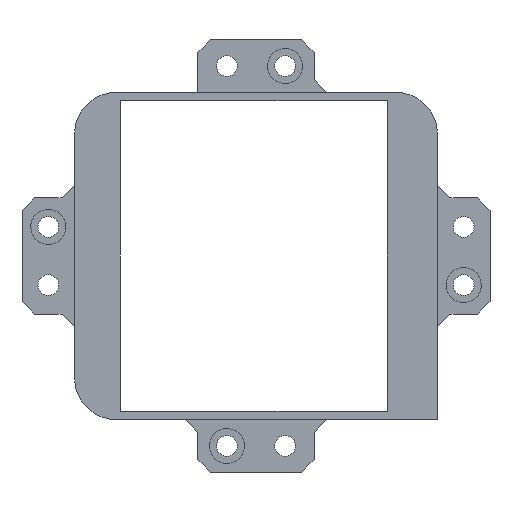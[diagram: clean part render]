
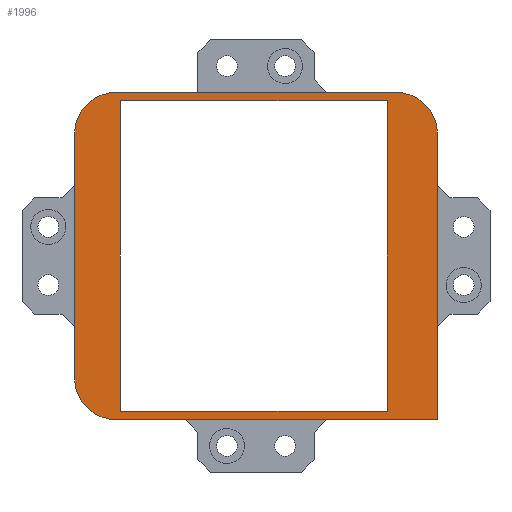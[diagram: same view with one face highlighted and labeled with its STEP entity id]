
A CAD part, left-side view. The second image highlights one B-rep face of the part: STEP entity #1996.
In plain terms, the highlighted planar face has unit normal (-1, 0, 0).
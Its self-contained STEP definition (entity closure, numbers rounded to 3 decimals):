
#50=FACE_BOUND('',#276,.T.);
#82=CIRCLE('',#2144,5.);
#83=CIRCLE('',#2146,5.);
#84=CIRCLE('',#2147,5.);
#156=FACE_OUTER_BOUND('',#275,.T.);
#275=EDGE_LOOP('',(#1607,#1608,#1609,#1610,#1611,#1612,#1613));
#276=EDGE_LOOP('',(#1614,#1615,#1616,#1617));
#315=LINE('',#2686,#549);
#402=LINE('',#2872,#636);
#426=LINE('',#2923,#660);
#442=LINE('',#2954,#676);
#507=LINE('',#3133,#741);
#508=LINE('',#3135,#742);
#509=LINE('',#3137,#743);
#510=LINE('',#3138,#744);
#549=VECTOR('',#2188,10.);
#636=VECTOR('',#2303,10.);
#660=VECTOR('',#2351,10.);
#676=VECTOR('',#2381,10.);
#741=VECTOR('',#2580,10.);
#742=VECTOR('',#2581,10.);
#743=VECTOR('',#2582,10.);
#744=VECTOR('',#2583,10.);
#782=VERTEX_POINT('',#2683);
#783=VERTEX_POINT('',#2685);
#867=VERTEX_POINT('',#2869);
#868=VERTEX_POINT('',#2871);
#882=VERTEX_POINT('',#2920);
#883=VERTEX_POINT('',#2922);
#891=VERTEX_POINT('',#2952);
#937=VERTEX_POINT('',#3131);
#938=VERTEX_POINT('',#3132);
#939=VERTEX_POINT('',#3134);
#940=VERTEX_POINT('',#3136);
#959=EDGE_CURVE('',#783,#782,#315,.T.);
#1053=EDGE_CURVE('',#868,#867,#402,.T.);
#1079=EDGE_CURVE('',#883,#882,#426,.T.);
#1095=EDGE_CURVE('',#882,#891,#442,.T.);
#1178=EDGE_CURVE('',#868,#782,#82,.T.);
#1179=EDGE_CURVE('',#883,#867,#83,.T.);
#1180=EDGE_CURVE('',#783,#891,#84,.T.);
#1181=EDGE_CURVE('',#937,#938,#507,.T.);
#1182=EDGE_CURVE('',#938,#939,#508,.T.);
#1183=EDGE_CURVE('',#939,#940,#509,.T.);
#1184=EDGE_CURVE('',#940,#937,#510,.T.);
#1607=ORIENTED_EDGE('',*,*,#1178,.F.);
#1608=ORIENTED_EDGE('',*,*,#1053,.T.);
#1609=ORIENTED_EDGE('',*,*,#1179,.F.);
#1610=ORIENTED_EDGE('',*,*,#1079,.T.);
#1611=ORIENTED_EDGE('',*,*,#1095,.T.);
#1612=ORIENTED_EDGE('',*,*,#1180,.F.);
#1613=ORIENTED_EDGE('',*,*,#959,.T.);
#1614=ORIENTED_EDGE('',*,*,#1181,.T.);
#1615=ORIENTED_EDGE('',*,*,#1182,.T.);
#1616=ORIENTED_EDGE('',*,*,#1183,.T.);
#1617=ORIENTED_EDGE('',*,*,#1184,.T.);
#1805=PLANE('',#2145);
#1996=ADVANCED_FACE('',(#156,#50),#1805,.T.);
#2144=AXIS2_PLACEMENT_3D('',#3127,#2572,#2573);
#2145=AXIS2_PLACEMENT_3D('',#3128,#2574,#2575);
#2146=AXIS2_PLACEMENT_3D('',#3129,#2576,#2577);
#2147=AXIS2_PLACEMENT_3D('',#3130,#2578,#2579);
#2188=DIRECTION('',(0.,1.,0.));
#2303=DIRECTION('',(0.,0.,-1.));
#2351=DIRECTION('',(0.,-1.,0.));
#2381=DIRECTION('',(0.,0.,1.));
#2572=DIRECTION('center_axis',(1.,0.,0.));
#2573=DIRECTION('ref_axis',(0.,0.707,0.707));
#2574=DIRECTION('center_axis',(-1.,0.,0.));
#2575=DIRECTION('ref_axis',(0.,0.,1.));
#2576=DIRECTION('center_axis',(1.,0.,0.));
#2577=DIRECTION('ref_axis',(0.,0.707,-0.707));
#2578=DIRECTION('center_axis',(1.,0.,0.));
#2579=DIRECTION('ref_axis',(0.,-0.707,0.707));
#2580=DIRECTION('',(0.,0.,-1.));
#2581=DIRECTION('',(0.,1.,0.));
#2582=DIRECTION('',(0.,0.,1.));
#2583=DIRECTION('',(0.,-1.,0.));
#2683=CARTESIAN_POINT('',(-16.5,32.5,19.616));
#2685=CARTESIAN_POINT('',(-16.5,-1.,19.616));
#2686=CARTESIAN_POINT('',(-16.5,-6.,19.616));
#2869=CARTESIAN_POINT('',(-16.5,37.5,-14.616));
#2871=CARTESIAN_POINT('',(-16.5,37.5,14.616));
#2872=CARTESIAN_POINT('',(-16.5,37.5,19.616));
#2920=CARTESIAN_POINT('',(-16.5,-6.,-19.616));
#2922=CARTESIAN_POINT('',(-16.5,32.5,-19.616));
#2923=CARTESIAN_POINT('',(-16.5,37.5,-19.616));
#2952=CARTESIAN_POINT('',(-16.5,-6.,14.616));
#2954=CARTESIAN_POINT('',(-16.5,-6.,-19.616));
#3127=CARTESIAN_POINT('Origin',(-16.5,32.5,14.616));
#3128=CARTESIAN_POINT('Origin',(-16.5,15.75,0.));
#3129=CARTESIAN_POINT('Origin',(-16.5,32.5,-14.616));
#3130=CARTESIAN_POINT('Origin',(-16.5,-1.,14.616));
#3131=CARTESIAN_POINT('',(-16.5,0.,18.616));
#3132=CARTESIAN_POINT('',(-16.5,0.,-18.616));
#3133=CARTESIAN_POINT('',(-16.5,0.,-9.308));
#3134=CARTESIAN_POINT('',(-16.5,32.,-18.616));
#3135=CARTESIAN_POINT('',(-16.5,23.875,-18.616));
#3136=CARTESIAN_POINT('',(-16.5,32.,18.616));
#3137=CARTESIAN_POINT('',(-16.5,32.,9.308));
#3138=CARTESIAN_POINT('',(-16.5,7.875,18.616));
